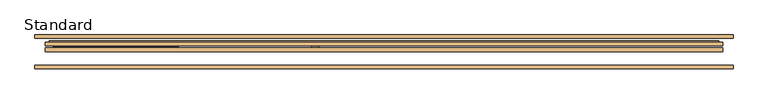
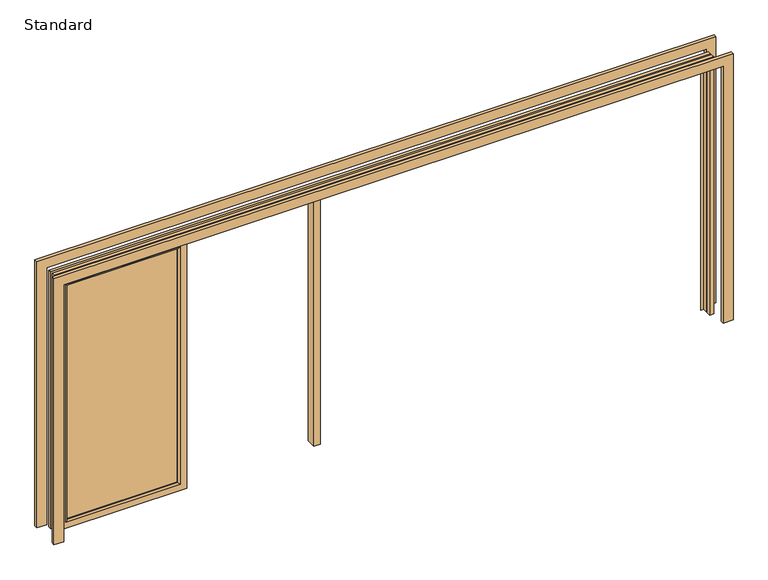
"""IFC4 building model written with IfcOpenShell, lengths in millimetres: door geometry, SMARTS_Visofold1000 : Standard."""

import ifcopenshell
import ifcopenshell.guid

model = None  # the IFC model being written
_history = None  # IfcOwnerHistory: only IFC2X3 demands one
_inside = {}  # id of a spatial element -> (the spatial element, [elements in it])
_under = {}  # id of a project, library or spatial element -> (it, [spatial elements below it])
_declared = {}  # id of a project -> (the project, [libraries it declares])
_typed = {}  # id of a type object -> (the type object, [elements of that type])
_made_of = {}  # id of a material, layer set ... -> (it, [elements and type objects made of it])


def new_model(schema):
    """Start an empty IFC model of exactly this schema.

    Asked for "IFC4X3", IfcOpenShell would pick the latest addendum, in which some entities
    have other attributes; the version numbers below select the first issue.
    IFC2X3 requires an IfcOwnerHistory on every rooted entity: one is made here for all.
    """
    global model, _history
    if schema == "IFC4X3":
        model = ifcopenshell.file(schema_version=(4, 3, 0, 0))
    else:
        model = ifcopenshell.file(schema=schema)
    _inside.clear()
    _under.clear()
    _declared.clear()
    _typed.clear()
    _made_of.clear()
    _history = None
    if model.schema == "IFC2X3":
        org = make("IfcOrganization", Name="unknown")
        user = make(
            "IfcPersonAndOrganization",
            ThePerson=make("IfcPerson", FamilyName="unknown"),
            TheOrganization=org,
        )
        app = make(
            "IfcApplication",
            ApplicationDeveloper=org,
            Version="unknown",
            ApplicationFullName="unknown",
            ApplicationIdentifier="unknown",
        )
        _history = make(
            "IfcOwnerHistory",
            OwningUser=user,
            OwningApplication=app,
            ChangeAction="ADDED",
            CreationDate=0,
        )
    return model


def make(cls, **values):
    """One entity of the class cls with the attributes given. An attribute that is None is left unset."""
    return model.create_entity(
        cls, **{name: value for name, value in values.items() if value is not None}
    )


def rooted(cls, **values):
    """An entity with a GlobalId (a new one), such as an element, a storey or a relation."""
    return make(cls, GlobalId=ifcopenshell.guid.new(), OwnerHistory=_history, **values)


def si_unit(unit_type, name, prefix=None):
    """IfcSIUnit, for example si_unit("LENGTHUNIT", "METRE", prefix="MILLI")."""
    return make("IfcSIUnit", UnitType=unit_type, Prefix=prefix, Name=name)


def assignment(units):
    """IfcUnitAssignment: the units of a project."""
    return None if units is None else make("IfcUnitAssignment", Units=units)


def point(xyz):
    """IfcCartesianPoint."""
    return None if xyz is None else make("IfcCartesianPoint", Coordinates=xyz)


def direction(xyz):
    """IfcDirection."""
    return None if xyz is None else make("IfcDirection", DirectionRatios=xyz)


def frame(location, z_axis=None, x_axis=None):
    """IfcAxis2Placement3D, a coordinate frame: its origin and axes. An axis left out is left unset."""
    return make(
        "IfcAxis2Placement3D",
        Location=point(location),
        Axis=direction(z_axis),
        RefDirection=direction(x_axis),
    )


def origin():
    """The frame at (0, 0, 0) with its axes left unset."""
    return frame((0.0, 0.0, 0.0))


def origin_with_axes():
    """The frame at (0, 0, 0) with the z axis (0, 0, 1) and the x axis (1, 0, 0) written out."""
    return frame((0.0, 0.0, 0.0), z_axis=(0.0, 0.0, 1.0), x_axis=(1.0, 0.0, 0.0))


def place(relative_to, where):
    """IfcLocalPlacement: puts the frame where relative to a parent placement (None: the world)."""
    return make(
        "IfcLocalPlacement", PlacementRelTo=relative_to, RelativePlacement=where
    )


def context(
    kind, dimensions, precision=None, world=None, true_north=None, identifier=None
):
    """IfcGeometricRepresentationContext, for example the 3D "Model" context."""
    return make(
        "IfcGeometricRepresentationContext",
        ContextIdentifier=identifier,
        ContextType=kind,
        CoordinateSpaceDimension=dimensions,
        Precision=precision,
        WorldCoordinateSystem=world,
        TrueNorth=true_north,
    )


def project(units=None, contexts=None):
    """IfcProject with its units and contexts."""
    return rooted(
        "IfcProject",
        Name="project",
        RepresentationContexts=contexts,
        UnitsInContext=assignment(units),
    )


def spatial(cls, under=None, at=None, **own):
    """A site, building, storey or space (cls), placed at a placement, below another one or the project."""
    s = rooted(cls, ObjectPlacement=at, **own)
    if under is not None:
        _under.setdefault(under.id(), (under, []))[1].append(s)
    return s


def polyline(points):
    """IfcPolyline through the points."""
    return make("IfcPolyline", Points=[point(p) for p in points])


def ellipse_curve(where, semi_axis1, semi_axis2):
    """IfcEllipse in the frame where."""
    return make(
        "IfcEllipse", Position=where, SemiAxis1=semi_axis1, SemiAxis2=semi_axis2
    )


def outline(outer, holes=None, kind="AREA"):
    """IfcArbitraryClosedProfileDef: a profile drawn as a closed curve; with holes, ...WithVoids."""
    if holes is None:
        return make("IfcArbitraryClosedProfileDef", ProfileType=kind, OuterCurve=outer)
    return make(
        "IfcArbitraryProfileDefWithVoids",
        ProfileType=kind,
        OuterCurve=outer,
        InnerCurves=holes,
    )


def extrude(swept, where, along, depth):
    """IfcExtrudedAreaSolid: the profile swept, set in the frame where, extruded along a direction by depth."""
    return make(
        "IfcExtrudedAreaSolid",
        SweptArea=swept,
        Position=where,
        ExtrudedDirection=direction(along),
        Depth=depth,
    )


def faces_of(points, faces, orient=None, outer=None):
    """IfcFace entities. A face is a list of loops; a loop is a list of indices into points, from 0.

    orient and outer hold one flag for each loop. By default every Orientation is true, the
    first loop of a face is its IfcFaceOuterBound and the others are IfcFaceBound.
    """
    made = []
    for i, loops in enumerate(faces):
        bounds = []
        for j, loop in enumerate(loops):
            is_outer = j == 0 if outer is None else outer[i][j]
            bounds.append(
                make(
                    "IfcFaceOuterBound" if is_outer else "IfcFaceBound",
                    Bound=make("IfcPolyLoop", Polygon=[points[k] for k in loop]),
                    Orientation=True if orient is None else orient[i][j],
                )
            )
        made.append(make("IfcFace", Bounds=bounds))
    return made


def faceted_brep(points, faces, orient=None, outer=None, voids=None):
    """IfcFacetedBrep: a solid bounded by flat faces; with voids (closed shells), ...WithVoids."""
    shared = [point(p) for p in points]
    hull = make("IfcClosedShell", CfsFaces=faces_of(shared, faces, orient, outer))
    if voids is None:
        return make("IfcFacetedBrep", Outer=hull)
    return make(
        "IfcFacetedBrepWithVoids",
        Outer=hull,
        Voids=[
            make(cls, CfsFaces=faces_of(shared, fs, o, b)) for cls, fs, o, b in voids
        ],
    )


def shape(context_of_items, identifier, shape_type, items):
    """IfcShapeRepresentation: the items that make up one representation, for example the "Body"."""
    return make(
        "IfcShapeRepresentation",
        ContextOfItems=context_of_items,
        RepresentationIdentifier=identifier,
        RepresentationType=shape_type,
        Items=items,
    )


def source(mapping_origin, context_of_items, identifier, shape_type, items):
    """IfcRepresentationMap: a shape defined once, which mapped items show again and again."""
    return make(
        "IfcRepresentationMap",
        MappingOrigin=mapping_origin,
        MappedRepresentation=shape(context_of_items, identifier, shape_type, items),
    )


def transform(
    local_origin,
    x_axis=None,
    y_axis=None,
    z_axis=None,
    scale=None,
    scale2=None,
    scale3=None,
    uniform=True,
):
    """IfcCartesianTransformationOperator3D, or its non-uniform kind. x_axis, y_axis, z_axis: its Axis1, 2, 3."""
    if uniform:
        return make(
            "IfcCartesianTransformationOperator3D",
            Axis1=direction(x_axis),
            Axis2=direction(y_axis),
            LocalOrigin=point(local_origin),
            Scale=scale,
            Axis3=direction(z_axis),
        )
    return make(
        "IfcCartesianTransformationOperator3DnonUniform",
        Axis1=direction(x_axis),
        Axis2=direction(y_axis),
        LocalOrigin=point(local_origin),
        Scale=scale,
        Axis3=direction(z_axis),
        Scale2=scale2,
        Scale3=scale3,
    )


def mapped(mapping_source, mapping_target):
    """IfcMappedItem: shows the shape of a source again, moved by a transform."""
    return make(
        "IfcMappedItem", MappingSource=mapping_source, MappingTarget=mapping_target
    )


def made_of(thing, what):
    """Note that an element or type object is made of a material, layer set ...; save() writes the relation."""
    if what is not None:
        _made_of.setdefault(what.id(), (what, []))[1].append(thing)
    return thing


def element(
    cls,
    number,
    at=None,
    inside=None,
    cuts=None,
    type_object=None,
    material=None,
    context=None,
    identifier="Body",
    shape_type=None,
    held_by="IfcProductDefinitionShape",
    body=None,
    shapes=None,
    **own,
):
    """One element of the class cls, such as IfcWall. Its Tag is "e" and its number.

    at: its placement. inside: the storey or other place that contains it. cuts: it is an
    opening in that element (IfcRelVoidsElement). A single representation is given by context,
    identifier, shape_type and body (its items); several are given by shapes. held_by: the class
    of the entity that holds the representations. save() writes the other relations.
    """
    e = rooted(cls, Tag="e%d" % number, ObjectPlacement=at, **own)
    if body is not None:
        shapes = [shape(context, identifier, shape_type, body)]
    if shapes is not None:
        e.Representation = make(held_by, Representations=shapes)
    if inside is not None:
        _inside.setdefault(inside.id(), (inside, []))[1].append(e)
    if cuts is not None:
        rooted(
            "IfcRelVoidsElement", RelatingBuildingElement=cuts, RelatedOpeningElement=e
        )
    if type_object is not None:
        _typed.setdefault(type_object.id(), (type_object, []))[1].append(e)
    return made_of(e, material)


def aggregate(whole, parts):
    """IfcRelAggregates: a whole, such as a stair, and the parts it consists of."""
    return rooted("IfcRelAggregates", RelatingObject=whole, RelatedObjects=parts)


def save(model, path):
    """Write the relations noted so far, then the file.

    IfcRelAggregates (storeys below a building ...), IfcRelContainedInSpatialStructure (elements
    in a storey), IfcRelDefinesByType, IfcRelAssociatesMaterial and IfcRelDeclares: one each for
    every whole, place, type object, material and project.
    """
    for whole, parts in _under.values():
        aggregate(whole, parts)
    for where, things in _inside.values():
        rooted(
            "IfcRelContainedInSpatialStructure",
            RelatedElements=things,
            RelatingStructure=where,
        )
    for kind, things in _typed.values():
        rooted("IfcRelDefinesByType", RelatedObjects=things, RelatingType=kind)
    for what, things in _made_of.values():
        rooted("IfcRelAssociatesMaterial", RelatedObjects=things, RelatingMaterial=what)
    for by, libraries in _declared.values():
        rooted("IfcRelDeclares", RelatingContext=by, RelatedDefinitions=libraries)
    model.write(path)


def plane_surface(at):
    """IfcPlane: the flat surface through the origin of the frame at, square to its z axis."""
    return make("IfcPlane", Position=at)


def cylinder_surface(at, radius):
    """IfcCylindricalSurface: all points at the distance radius from the z axis of the frame at."""
    return make("IfcCylindricalSurface", Position=at, Radius=radius)


def advanced_brep(points, edges, surfaces, faces):
    """IfcAdvancedBrep: a solid bounded by faces that lie on surfaces and meet in shared edges.

    An edge is (start, end): straight between two places in points (the first is 0);
    or (start, end, curve); or (start, end, curve, False) where it runs against its curve.
    A face is (place in surfaces, loops), or (place, loops, False) where it looks against
    its surface's normal. A loop lists edges by number (the first is 1), with a minus sign
    where the edge is run from its end to its start. The first loop is the outer one.
    """
    corners = [point(p) for p in points]
    vertices = [make("IfcVertexPoint", VertexGeometry=c) for c in corners]
    made = []
    for start, end, *more in edges:
        made.append(
            make(
                "IfcEdgeCurve",
                EdgeStart=vertices[start],
                EdgeEnd=vertices[end],
                EdgeGeometry=more[0] if more else make("IfcPolyline", Points=[corners[start], corners[end]]),
                SameSense=more[1] if len(more) > 1 else True,
            )
        )
    hull = []
    for where, loops, *sense in faces:
        bounds = []
        for j, loop in enumerate(loops):
            ring = [make("IfcOrientedEdge", EdgeElement=made[abs(k) - 1], Orientation=k > 0) for k in loop]
            bounds.append(
                make(
                    "IfcFaceOuterBound" if j == 0 else "IfcFaceBound",
                    Bound=make("IfcEdgeLoop", EdgeList=ring),
                    Orientation=True,
                )
            )
        hull.append(make("IfcAdvancedFace", Bounds=bounds, FaceSurface=surfaces[where], SameSense=sense[0] if sense else True))
    return make("IfcAdvancedBrep", Outer=make("IfcClosedShell", CfsFaces=hull))


def standard_d55a6661(model_context):
    return source(origin(), model_context, "Body", "SolidModel", [
        advanced_brep(
        [(-1556.5, 13.3, 60.5), (-1556.5, 13.3, 1939.5), (-1556.5, 17.4, 1939.5), (-1556.5, 17.4, 60.5), (-1496.0, 17.4, 0.0), (-1496.0, 17.4, 2000.0), (-1496.0, 0.0, 2000.0), (-1496.0, 0.0, 0.0), (-2399.5, 13.3, 1939.5), (-2399.5, 17.4, 1939.5), (-2460.0, 17.4, 2000.0), (-2460.0, 0.0, 2000.0), (-2399.5, 13.3, 60.5), (-2399.5, 17.4, 60.5), (-2460.0, 17.4, 0.0), (-2460.0, 0.0, 0.0), (-1543.2, 0.0, 1952.8), (-1543.2, 0.0, 47.2), (-2412.8, 0.0, 47.2), (-2412.8, 0.0, 1952.8), (-1513.8691481, 34.8, 17.8691481), (-1513.8691481, 34.8, 1982.1308519), (-1513.8691481, 17.4, 1982.1308519), (-1513.8691481, 17.4, 17.8691481), (-2442.1308519, 34.8, 1982.1308519), (-2442.1308519, 17.4, 1982.1308519), (-2442.1308519, 34.8, 17.8691481), (-2442.1308519, 17.4, 17.8691481), (-1541.0, 17.4, 45.0), (-1541.0, 17.4, 1955.0), (-1541.0, 34.8, 1955.0), (-1541.0, 34.8, 45.0), (-2415.0, 17.4, 1955.0), (-2415.0, 34.8, 1955.0), (-2415.0, 17.4, 45.0), (-2415.0, 34.8, 45.0)],
        [
            (0, 1),
            (1, 2),
            (2, 3),
            (3, 0),
            (4, 5),
            (5, 6),
            (6, 7),
            (7, 4),
            (1, 8),
            (8, 9),
            (9, 2),
            (5, 10),
            (10, 11),
            (11, 6),
            (8, 12),
            (12, 13),
            (13, 9),
            (10, 14),
            (14, 15),
            (15, 11),
            (12, 0),
            (3, 13),
            (15, 7),
            (16, 17),
            (17, 18),
            (18, 19),
            (19, 16),
            (14, 4),
            (16, 1, ellipse_curve(frame((-1543.2, 13.3, 1952.8), z_axis=(0.7071067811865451, 0.0, -0.70710678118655), x_axis=(-0.7071067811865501, 0.0, -0.7071067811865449)), 18.8090404, 13.3)),
            (0, 17, ellipse_curve(frame((-1543.2, 13.3, 47.2), z_axis=(0.7071067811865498, 0.0, 0.7071067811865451), x_axis=(0.7071067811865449, 0.0, -0.70710678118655)), 18.8090404, 13.3)),
            (19, 8, ellipse_curve(frame((-2412.8, 13.3, 1952.8), z_axis=(0.7071067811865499, 0.0, 0.707106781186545), x_axis=(0.7071067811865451, 0.0, -0.7071067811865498)), 18.8090404, 13.3)),
            (18, 12, ellipse_curve(frame((-2412.8, 13.3, 47.2), z_axis=(-0.7071067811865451, 0.0, 0.7071067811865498), x_axis=(0.7071067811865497, 0.0, 0.7071067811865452)), 18.8090404, 13.3)),
            (20, 21),
            (21, 22),
            (22, 23),
            (23, 20),
            (21, 24),
            (24, 25),
            (25, 22),
            (24, 26),
            (26, 27),
            (27, 25),
            (27, 23),
            (26, 20),
            (28, 29),
            (29, 30),
            (30, 31),
            (31, 28),
            (29, 32),
            (32, 33),
            (33, 30),
            (32, 34),
            (34, 35),
            (35, 33),
            (34, 28),
            (31, 35),
        ],
        [
            plane_surface(frame((-1556.5, 17.4, 60.5), z_axis=(-1.0, 0.0, 0.0), x_axis=(0.0, 0.0, 1.0))),
            plane_surface(frame((-1496.0, 0.0, 0.0), z_axis=(1.0, 0.0, 0.0), x_axis=(0.0, 0.0, 1.0))),
            plane_surface(frame((-1556.5, 17.4, 1939.5), z_axis=(0.0, 0.0, -1.0), x_axis=(-1.0, 0.0, 0.0))),
            plane_surface(frame((-1496.0, 0.0, 2000.0), z_axis=(0.0, 0.0, 1.0), x_axis=(-1.0, 0.0, 0.0))),
            plane_surface(frame((-2399.5, 17.4, 1939.5), z_axis=(1.0, 0.0, 0.0), x_axis=(0.0, 0.0, -1.0))),
            plane_surface(frame((-2460.0, 0.0, 2000.0), z_axis=(-1.0, 0.0, 0.0), x_axis=(0.0, 0.0, -1.0))),
            plane_surface(frame((-2399.5, 17.4, 60.5), z_axis=(0.0, 0.0, 1.0), x_axis=(1.0, 0.0, 0.0))),
            plane_surface(frame((-2412.8, 0.0, 47.2), z_axis=(0.0, -1.0, 0.0), x_axis=(1.0, 0.0, 0.0))),
            plane_surface(frame((-2460.0, 0.0, 0.0), z_axis=(0.0, 0.0, -1.0), x_axis=(1.0, 0.0, 0.0))),
            cylinder_surface(frame((-1543.2, 13.3, 0.0), z_axis=(0.0, 0.0, -1.0), x_axis=(0.0, 1.0, 0.0)), 13.3),
            cylinder_surface(frame((-1496.0, 13.3, 1952.8), z_axis=(1.0, 0.0, 0.0), x_axis=(0.0, 1.0, 0.0)), 13.3),
            cylinder_surface(frame((-2412.8, 13.3, 2000.0), z_axis=(0.0, 0.0, 1.0), x_axis=(0.0, 1.0, 0.0)), 13.3),
            cylinder_surface(frame((-2460.0, 13.3, 47.2), z_axis=(-1.0, 0.0, 0.0), x_axis=(0.0, 1.0, 0.0)), 13.3),
            plane_surface(frame((-1513.8691481, 17.4, 17.8691481), z_axis=(1.0, 0.0, 0.0), x_axis=(0.0, 0.0, 1.0))),
            plane_surface(frame((-1513.8691481, 17.4, 1982.1308519), z_axis=(0.0, 0.0, 1.0), x_axis=(-1.0, 0.0, 0.0))),
            plane_surface(frame((-2442.1308519, 17.4, 1982.1308519), z_axis=(-1.0, 0.0, 0.0), x_axis=(0.0, 0.0, -1.0))),
            plane_surface(frame((-2460.0, 17.4, 0.0), z_axis=(0.0, 1.0, 0.0), x_axis=(1.0, 0.0, 0.0))),
            plane_surface(frame((-2442.1308519, 17.4, 17.8691481), z_axis=(0.0, 0.0, -1.0), x_axis=(1.0, 0.0, 0.0))),
            plane_surface(frame((-1541.0, 34.8, 45.0), z_axis=(-1.0, 0.0, 0.0), x_axis=(0.0, 0.0, 1.0))),
            plane_surface(frame((-1541.0, 34.8, 1955.0), z_axis=(0.0, 0.0, -1.0), x_axis=(-1.0, 0.0, 0.0))),
            plane_surface(frame((-2415.0, 34.8, 1955.0), z_axis=(1.0, 0.0, 0.0), x_axis=(0.0, 0.0, -1.0))),
            plane_surface(frame((-2415.0, 34.8, 45.0), z_axis=(0.0, 0.0, 1.0), x_axis=(1.0, 0.0, 0.0))),
            plane_surface(frame((-2415.0, 17.4, 45.0), z_axis=(0.0, 1.0, 0.0), x_axis=(1.0, 0.0, 0.0))),
            plane_surface(frame((-2442.1308519, 34.8, 17.8691481), z_axis=(0.0, 1.0, 0.0), x_axis=(1.0, 0.0, 0.0))),
        ],
        [
            (0, [[1, 2, 3, 4]]),
            (1, [[5, 6, 7, 8]]),
            (2, [[9, 10, 11, -2]]),
            (3, [[12, 13, 14, -6]]),
            (4, [[15, 16, 17, -10]]),
            (5, [[18, 19, 20, -13]]),
            (6, [[21, -4, 22, -16]]),
            (7, [[-7, -14, -20, 23], [24, 25, 26, 27]]),
            (8, [[28, -8, -23, -19]]),
            (9, [[-24, 29, -1, 30]]),
            (10, [[-27, 31, -9, -29]]),
            (11, [[-26, 32, -15, -31]]),
            (12, [[-25, -30, -21, -32]]),
            (13, [[33, 34, 35, 36]]),
            (14, [[37, 38, 39, -34]]),
            (15, [[40, 41, 42, -38]]),
            (16, [[-5, -28, -18, -12], [-35, -39, -42, 43]]),
            (17, [[44, -36, -43, -41]]),
            (18, [[45, 46, 47, 48]]),
            (19, [[49, 50, 51, -46]]),
            (20, [[52, 53, 54, -50]]),
            (21, [[55, -48, 56, -53]]),
            (22, [[-45, -55, -52, -49], [-3, -11, -17, -22]]),
            (23, [[-33, -44, -40, -37], [-47, -51, -54, -56]]),
        ],
    ),
        extrude(outline(polyline([(-1556.5, 50.1484783), (-1556.5, 21.4), (-2399.5, 21.4), (-2399.5, 50.1484783), (-1556.5, 50.1484783)])), frame((0.0, 0.0, 60.5), z_axis=(0.0, 0.0, 1.0), x_axis=(1.0, 0.0, 0.0)), (0.0, 0.0, 1.0), 1879.0),
        extrude(outline(polyline([(-482.0, 0.0), (-532.0, 0.0), (-532.0, 75.1750992), (-482.0, 75.1750992), (-482.0, 0.0)])), origin_with_axes(), (0.0, 0.0, 1.0), 2000.0),
        extrude(outline(polyline([(2058.6516063, -2500.0), (2058.6516063, 2500.0), (0.0, 2500.0), (0.0, 2575.0), (2133.6516063, 2575.0), (2133.6516063, -2575.0), (0.0, -2575.0), (0.0, -2500.0), (2058.6516063, -2500.0)])), frame((0.0, 100.0, 0.0), z_axis=(0.0, 1.0, 0.0), x_axis=(0.0, 0.0, 1.0)), (0.0, 0.0, 1.0), 25.0),
        extrude(outline(polyline([(2133.6516063, -2575.0), (0.0, -2575.0), (0.0, -2500.0), (2058.6516063, -2500.0), (2058.6516063, 2500.0), (0.0, 2500.0), (0.0, 2575.0), (2133.6516063, 2575.0), (2133.6516063, -2575.0)])), frame((0.0, -125.0, 0.0), z_axis=(0.0, 1.0, 0.0), x_axis=(0.0, 0.0, 1.0)), (0.0, 0.0, 1.0), 25.0),
        extrude(outline(polyline([(0.0, 2468.8), (0.0, 2500.0), (2058.6516063, 2500.0), (2058.6516063, -2500.0), (0.0, -2500.0), (0.0, -2468.8), (2027.4516063, -2468.8), (2027.4516063, 2468.8), (0.0, 2468.8)])), frame((0.0, 0.0, 0.0), z_axis=(0.0, 1.0, 0.0), x_axis=(0.0, 0.0, 1.0)), (0.0, 0.0, 1.0), 29.65),
        faceted_brep([(2500.0, 44.85, 0.0), (2468.8, 44.85, 0.0), (2468.8, 77.4, 0.0), (2448.3, 77.4, 0.0), (2448.3, 81.9, 0.0), (2470.6, 81.9, 0.0), (2470.6, 70.0, 0.0), (2500.0, 70.0, 0.0), (2500.0, 44.85, 2058.6516063), (-2500.0, 44.85, 2058.6516063), (-2500.0, 44.85, 0.0), (-2468.8, 44.85, 0.0), (-2468.8, 44.85, 2027.4516063), (2468.8, 44.85, 2027.4516063), (2468.8, 77.4, 2027.4516063), (-2468.8, 77.4, 2027.4516063), (-2468.8, 77.4, 0.0), (-2448.3, 77.4, 0.0), (-2448.3, 77.4, 2006.9516063), (2448.3, 77.4, 2006.9516063), (2448.3, 81.9, 2006.9516063), (-2448.3, 81.9, 2006.9516063), (-2448.3, 81.9, 0.0), (-2470.6, 81.9, 0.0), (-2470.6, 81.9, 2029.2516063), (2470.6, 81.9, 2029.2516063), (2470.6, 70.0, 2029.2516063), (-2470.6, 70.0, 2029.2516063), (-2470.6, 70.0, 0.0), (-2500.0, 70.0, 0.0), (-2500.0, 70.0, 2058.6516063), (2500.0, 70.0, 2058.6516063)], [[[0, 1, 2, 3, 4, 5, 6, 7]], [[1, 0, 8, 9, 10, 11, 12, 13]], [[2, 1, 13, 14]], [[3, 2, 14, 15, 16, 17, 18, 19]], [[4, 3, 19, 20]], [[5, 4, 20, 21, 22, 23, 24, 25]], [[6, 5, 25, 26]], [[7, 6, 26, 27, 28, 29, 30, 31]], [[0, 7, 31, 8]], [[10, 29, 28, 23, 22, 17, 16, 11]], [[9, 30, 29, 10]], [[27, 24, 23, 28]], [[21, 18, 17, 22]], [[15, 12, 11, 16]], [[8, 31, 30, 9]], [[14, 13, 12, 15]], [[26, 25, 24, 27]], [[20, 19, 18, 21]]]),
    ])


if __name__ == "__main__":
    model = new_model("IFC4")
    model_context = context("Model", 3, world=origin())
    ifc_project = project(units=[si_unit("LENGTHUNIT", "METRE", prefix="MILLI")], contexts=[model_context])
    site = spatial("IfcSite", under=ifc_project)
    building = spatial("IfcBuilding", under=site)
    placement = place(None, origin())
    standard_shape = standard_d55a6661(model_context)
    element("IfcDoor", 1, ObjectType="SMARTS_Visofold1000 : Standard", at=placement, inside=building, context=model_context, shape_type="MappedRepresentation", body=[
        mapped(standard_shape, transform((0.0, 0.0, 0.0), x_axis=(1.0, 0.0, 0.0), y_axis=(0.0, 1.0, 0.0), z_axis=(0.0, 0.0, 1.0))),
    ])
    save(model, "model.ifc")
